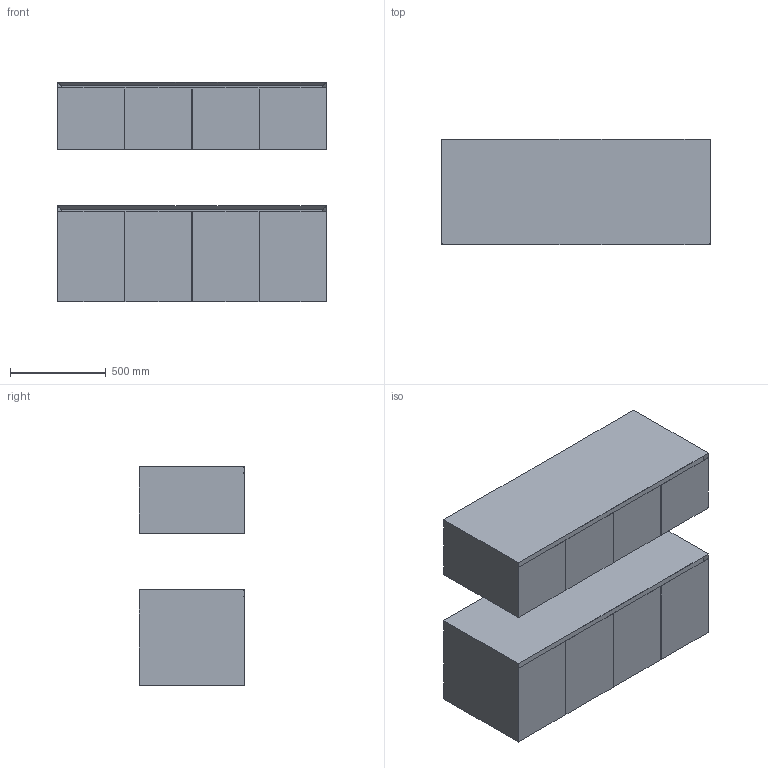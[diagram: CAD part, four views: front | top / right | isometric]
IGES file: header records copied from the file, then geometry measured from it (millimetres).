
Global section: file name: \\Archi-NAS\Comune\X GIOVANNI\MOBILI\EVOLINE\EVOLINE_6.igs; native system: Rhinoceros ( Feb 23 2021 ); preprocessor: Trout Lake IGES 012 Feb 23 2021; date: 230607.145946; units: millimetre
Bounding box: 1400 x 550 x 1143.94 mm (x, y, z)
Surface area: 13991454.3 mm2 (no closed solid volume)
Topology: 0 solids, 0 shells, 146 faces, 1168 edges, 1168 vertices
Faces by surface type: bspline 146
